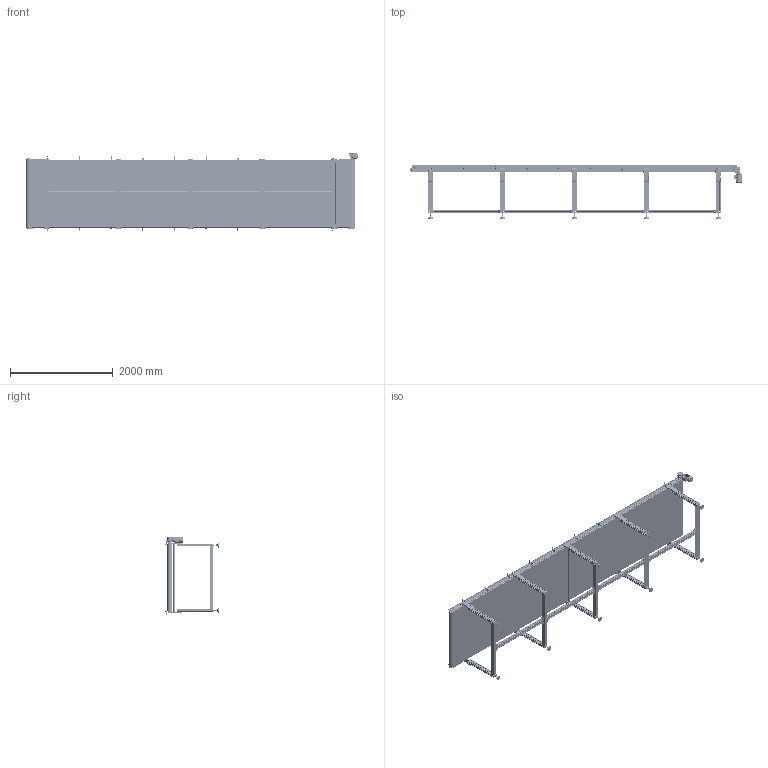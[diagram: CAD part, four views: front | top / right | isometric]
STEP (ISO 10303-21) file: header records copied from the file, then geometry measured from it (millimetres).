
FILE_DESCRIPTION (( 'STEP AP203' ), '1' );
FILE_NAME ('NASTRO_RETTILINEO_TAPPETO.step', '2026-06-03T07:31:36', ( 'Utente Windows' ), ( '' ), 'SwSTEP 2.0', 'SolidWorks 2024', '' );
FILE_SCHEMA (( 'CONFIG_CONTROL_DESIGN' ));
Length unit declared in the file: millimetre
Products named in the file (74): 084.808.002_084.808.002; 084.802.028; RULLO_REGGITAPPETO; 084.711.006_PER CAVA 8 PERNO ALTO 1; 084.302.000 DADI ALUSIC 13x13-1_084.302.009; 084.802.034_084.802.034; 084.802.019_084.802.019; DADI ESAGONALI NORMALI UNI 5588_M6 UNI 5588; VITI TSEI UNI 5933_M4x12 UNI 5933; 084.305.003-1; 084.301.000 VITI ALUSIC1_084.301.003; 084.301.000 VITI ALUSIC_084.301.003; 084.803.017; BLOCCO_REGGITAPPETO; PIEDE_95; 084.302.060; 2010.000.072; 084.802.060_Default<A macchina>; 084.802.014; PERNO_95_TRAINO_CINGHIE_49_DX_Default<A macchina>; 084.711.005; 084.711.006_L1; 084.803.003; 084.712.002; BLOCCO_TRAINO_95_STANDARD_49_DX_CON TENDINASTRO E SENZA CARTER; 084.303.001; 084.711.007; 2010.000.073; VITI TSEI UNI 5933_M5x12 UNI 5933; VITI TE UNI 5739_M8x12 UNI 5739; VITE_RONDELLA_M8X20; PERNO_95_RINVIO_CINGHIE; 084.802.062; 084.711.006_L2; 084.802.067_Default<A macchina>; 2010.000.074; 084.201.019; 084.802.013-2; 084.402.005; DADO ESAGONALE M30 AUTOBLOCCANTE UNI 7473_M30 UNI 7473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
Assembly tree (314 placements, depth 4):
  NASTRO_RETTILINEO_TAPPETO
    TAPPETO_STANDARD_CINGHIE
    TELAIO_95_CINGHIE_Default<A macchina>
    LAMIERA_STANDARD  x3
    RULLO_95_CINGHIE_Default<A macchina>  x2
    PERNO_95_TRAINO_CINGHIE_49_DX_Default<A macchina>
    BLOCCO_TRAINO_95_STANDARD_49_DX_CON TENDINASTRO E SENZA CARTER
      084.808.003_084.808.003
      084.302.060  x2
      084.802.034_084.802.034
      084.301.000 VITI ALUSIC_084.301.003  x6
      084.802.067_Default<A macchina>
      VITI TCEI UNI 5931_M4x25 UNI 5931  x2
      BLOCCO_BRACCIO_CH05P_CH05P
        084.808.013
        084.802.062
        0820ISO2342
        084.802.060_Default<A macchina>
        VITI TE UNI 5739_M8x12 UNI 5739  x4
        VITI TE UNI 5739_M6x12 UNI 5739  x4
        084.803.017
        VITI TCEI UNI 5931_M6x12 UNI 5931  x4
    BLOCCO_TRAINO_95_STANDARD_CON TENDINASTRO E CARTER
      084.808.002_084.808.002
      084.302.060  x2
      084.802.019_084.802.019
      084.301.000 VITI ALUSIC_084.301.003  x6
      VITI TCEI UNI 5931_M4x25 UNI 5931  x2
      084.802.071
      084.802.068
      VITI TSEI UNI 5933_M4x12 UNI 5933  x2
    GUIDA_CINGHIA_Z_95  x4
      449.014.106
      DADO ESAGONALE M30 AUTOBLOCCANTE UNI 7473_M30 UNI 7473
    PERNO_95_RINVIO_CINGHIE
    BLOCCO_RINVIO_95_STANDARD_CON TENDINASTRO E CARTER  x2
      084.808.002_084.808.002
      084.803.003
      084.302.060
      084.802.019_084.802.019
      VITI TSEI UNI 5933_M4x12 UNI 5933
      084.302.000 DADI ALUSIC 13x13-1_084.302.004
      084.301.000 VITI ALUSIC_084.301.003
      084.802.071
    SPONDA_Default<A macchina>  x2
    084.711.006_PER CAVA 8 PERNO ALTO 1  x16
      084.711.006_L1
      084.711.006_L2
      084.711.007
      084.711.005
      084.711.010
      DADI ESAGONALI NORMALI UNI 5588_M6 UNI 5588
    084.712.002  x4
    GAMBE_D95_Default<A macchina>  x5
    FLANGIA_GAMBA_95_CON GIUNTI
      2010.000.072
        2010.000.072_L_Default<A macchina>
        2010.000.073
        2010.000.074
      084.302.000 DADI ALUSIC 13x13-1_084.302.004  x6
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Bounding box: 6459.8 x 1040.5 x 1534.63 mm (x, y, z)
Volume: 127086042.8 mm3; surface area: 97487115 mm2
Topology: 852 solids, 857 shells, 41271 faces, 106031 edges, 66753 vertices
Faces by surface type: plane 17145, cylinder 12186, bspline 4834, cone 3506, torus 3080, sphere 520
Entity records: 382488 total; most frequent: CARTESIAN_POINT 142021, ORIENTED_EDGE 49836, DIRECTION 44512, EDGE_CURVE 24918, VERTEX_POINT 15884, AXIS2_PLACEMENT_3D 15368, VECTOR 13776, LINE 13776
